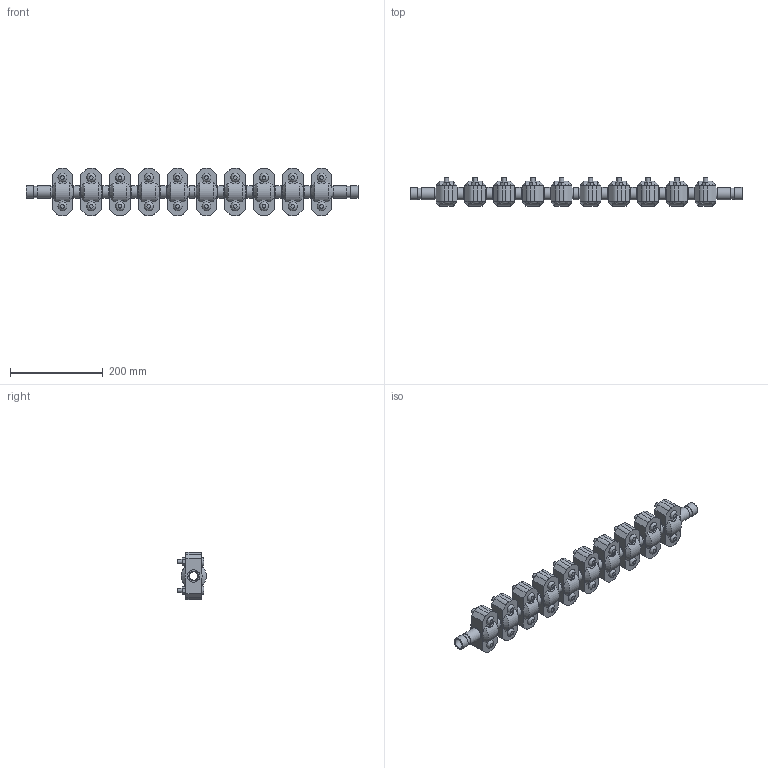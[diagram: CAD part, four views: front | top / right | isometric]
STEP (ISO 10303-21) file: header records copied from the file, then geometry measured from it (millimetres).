
FILE_DESCRIPTION(/* description */ ('VIC EXPANSION JOINT 10 COUPLINGS EXPANDED STYLE 155 (OGS)','CAx-IF Rec.Pracs.---Representation and Presentation of Product Manufacturing Information (PMI)---4.0---2014-10-13'),/* implementation_level */ '2;1');
FILE_NAME(/* name */ 'C:\Users\kkamble\AppData\Roaming\Autodesk\ApplicationPlugins\Victaulic.Temp\A992\Victaulic_IPS_Expansion Joint_Expanded_10 Couplings_Style 155 (OGS)_0.75 (20).stp',/* time_stamp */ '2021-06-26T23:49:07+02:00',/* author */ ('kkamble'),/* organization */ ('Victaulic'),/* preprocessor_version */ 'ST-DEVELOPER v17.2',/* originating_system */ 'Autodesk Inventor 2019',/* authorisation */ '');
FILE_SCHEMA (('AP242_MANAGED_MODEL_BASED_3D_ENGINEERING_MIM_LF { 1 0 10303 442 1 1 4 }'));
Length unit declared in the file: inch
Products named in the file (4): 155-0.75; Nipple-0.75; Nipple-0.75_1; 077-0.75
Assembly tree (21 placements, depth 2):
  155-0.75
    Nipple-0.75  x2
    Nipple-0.75_1  x9
    077-0.75  x10
Bounding box: 714.5 x 61.1 x 101.6 mm (x, y, z)
Volume: 1543314.4 mm3; surface area: 389795.5 mm2
Topology: 21 solids, 41 shells, 742 faces, 1780 edges, 1244 vertices
Faces by surface type: plane 426, cylinder 256, cone 40, bspline 20
Full cylindrical faces by diameter (mm): 9.525 x40, 11.43 x20, 17.78 x10, 20.93 x11, 23.825 x22, 26.67 x53
Entity records: 3081 total; most frequent: CARTESIAN_POINT 597, DIRECTION 505, ORIENTED_EDGE 410, EDGE_CURVE 205, AXIS2_PLACEMENT_3D 204, VERTEX_POINT 146, EDGE_LOOP 111, LINE 97
